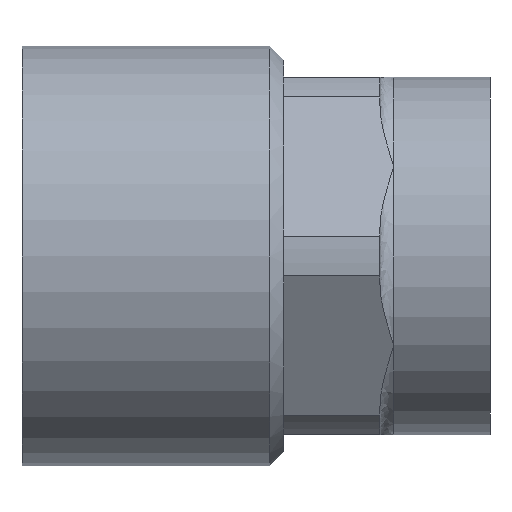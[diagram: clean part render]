
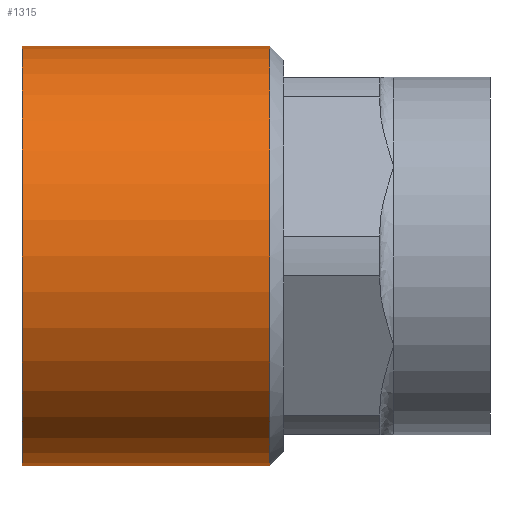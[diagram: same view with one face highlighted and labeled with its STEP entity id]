
A CAD part, front view. The second image highlights one B-rep face of the part: STEP entity #1315.
In plain terms, the highlighted cylindrical face has radius 15.25 mm (diameter 30.5 mm), a full revolution.
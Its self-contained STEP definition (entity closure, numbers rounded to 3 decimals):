
#1141=CARTESIAN_POINT('',(0.,15.25,0.0));
#1142=VERTEX_POINT('',#1141);
#1143=CARTESIAN_POINT('',(0.,0.,0.0));
#1144=DIRECTION('',(1.0,0.0,0.0));
#1145=DIRECTION('',(0.0,1.0,0.0));
#1146=AXIS2_PLACEMENT_3D('',#1143,#1144,#1145);
#1147=CIRCLE('',#1146,15.25);
#1148=EDGE_CURVE('',#1142,#1142,#1147,.T.);
#1296=CARTESIAN_POINT('',(9.,0.,0.0));
#1297=DIRECTION('',(1.0,0.,0.0));
#1298=DIRECTION('',(0.0,1.0,0.0));
#1299=AXIS2_PLACEMENT_3D('',#1296,#1297,#1298);
#1300=CYLINDRICAL_SURFACE('',#1299,15.25);
#1301=CARTESIAN_POINT('',(18.0,15.25,0.0));
#1302=VERTEX_POINT('',#1301);
#1303=CARTESIAN_POINT('',(18.,0.,0.0));
#1304=DIRECTION('',(1.0,0.0,0.0));
#1305=DIRECTION('',(0.0,1.0,0.0));
#1306=AXIS2_PLACEMENT_3D('',#1303,#1304,#1305);
#1307=CIRCLE('',#1306,15.25);
#1308=EDGE_CURVE('',#1302,#1302,#1307,.T.);
#1309=ORIENTED_EDGE('',*,*,#1308,.F.);
#1310=EDGE_LOOP('',(#1309));
#1311=FACE_OUTER_BOUND('',#1310,.T.);
#1312=ORIENTED_EDGE('',*,*,#1148,.T.);
#1313=EDGE_LOOP('',(#1312));
#1314=FACE_BOUND('',#1313,.T.);
#1315=ADVANCED_FACE('',(#1311,#1314),#1300,.T.);
